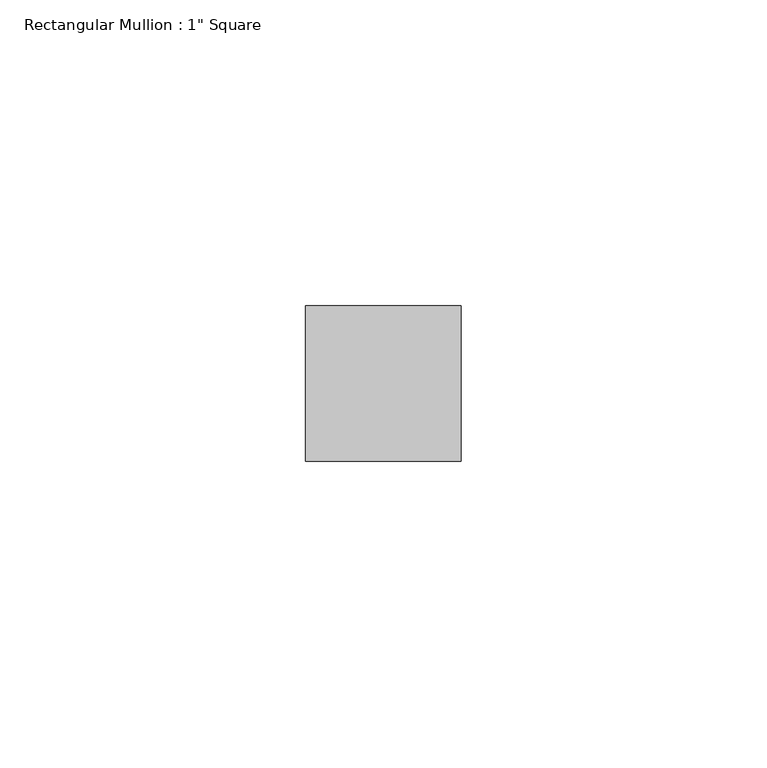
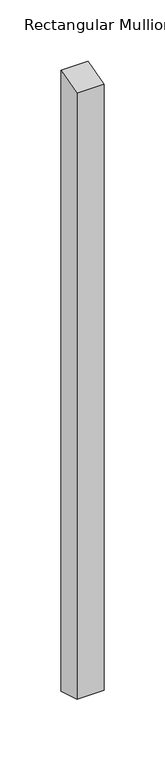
"""IFC4 building model written with IfcOpenShell, lengths in millimetres: member geometry."""

import ifcopenshell
import ifcopenshell.guid

model = None  # the IFC model being written
_history = None  # IfcOwnerHistory: only IFC2X3 demands one
_inside = {}  # id of a spatial element -> (the spatial element, [elements in it])
_under = {}  # id of a project, library or spatial element -> (it, [spatial elements below it])
_declared = {}  # id of a project -> (the project, [libraries it declares])
_typed = {}  # id of a type object -> (the type object, [elements of that type])
_made_of = {}  # id of a material, layer set ... -> (it, [elements and type objects made of it])


def new_model(schema):
    """Start an empty IFC model of exactly this schema.

    Asked for "IFC4X3", IfcOpenShell would pick the latest addendum, in which some entities
    have other attributes; the version numbers below select the first issue.
    IFC2X3 requires an IfcOwnerHistory on every rooted entity: one is made here for all.
    """
    global model, _history
    if schema == "IFC4X3":
        model = ifcopenshell.file(schema_version=(4, 3, 0, 0))
    else:
        model = ifcopenshell.file(schema=schema)
    _inside.clear()
    _under.clear()
    _declared.clear()
    _typed.clear()
    _made_of.clear()
    _history = None
    if model.schema == "IFC2X3":
        org = make("IfcOrganization", Name="unknown")
        user = make(
            "IfcPersonAndOrganization",
            ThePerson=make("IfcPerson", FamilyName="unknown"),
            TheOrganization=org,
        )
        app = make(
            "IfcApplication",
            ApplicationDeveloper=org,
            Version="unknown",
            ApplicationFullName="unknown",
            ApplicationIdentifier="unknown",
        )
        _history = make(
            "IfcOwnerHistory",
            OwningUser=user,
            OwningApplication=app,
            ChangeAction="ADDED",
            CreationDate=0,
        )
    return model


def make(cls, **values):
    """One entity of the class cls with the attributes given. An attribute that is None is left unset."""
    return model.create_entity(
        cls, **{name: value for name, value in values.items() if value is not None}
    )


def rooted(cls, **values):
    """An entity with a GlobalId (a new one), such as an element, a storey or a relation."""
    return make(cls, GlobalId=ifcopenshell.guid.new(), OwnerHistory=_history, **values)


def si_unit(unit_type, name, prefix=None):
    """IfcSIUnit, for example si_unit("LENGTHUNIT", "METRE", prefix="MILLI")."""
    return make("IfcSIUnit", UnitType=unit_type, Prefix=prefix, Name=name)


def assignment(units):
    """IfcUnitAssignment: the units of a project."""
    return None if units is None else make("IfcUnitAssignment", Units=units)


def point(xyz):
    """IfcCartesianPoint."""
    return None if xyz is None else make("IfcCartesianPoint", Coordinates=xyz)


def direction(xyz):
    """IfcDirection."""
    return None if xyz is None else make("IfcDirection", DirectionRatios=xyz)


def frame(location, z_axis=None, x_axis=None):
    """IfcAxis2Placement3D, a coordinate frame: its origin and axes. An axis left out is left unset."""
    return make(
        "IfcAxis2Placement3D",
        Location=point(location),
        Axis=direction(z_axis),
        RefDirection=direction(x_axis),
    )


def origin():
    """The frame at (0, 0, 0) with its axes left unset."""
    return frame((0.0, 0.0, 0.0))


def place(relative_to, where):
    """IfcLocalPlacement: puts the frame where relative to a parent placement (None: the world)."""
    return make(
        "IfcLocalPlacement", PlacementRelTo=relative_to, RelativePlacement=where
    )


def context(
    kind, dimensions, precision=None, world=None, true_north=None, identifier=None
):
    """IfcGeometricRepresentationContext, for example the 3D "Model" context."""
    return make(
        "IfcGeometricRepresentationContext",
        ContextIdentifier=identifier,
        ContextType=kind,
        CoordinateSpaceDimension=dimensions,
        Precision=precision,
        WorldCoordinateSystem=world,
        TrueNorth=true_north,
    )


def project(units=None, contexts=None):
    """IfcProject with its units and contexts."""
    return rooted(
        "IfcProject",
        Name="project",
        RepresentationContexts=contexts,
        UnitsInContext=assignment(units),
    )


def spatial(cls, under=None, at=None, **own):
    """A site, building, storey or space (cls), placed at a placement, below another one or the project."""
    s = rooted(cls, ObjectPlacement=at, **own)
    if under is not None:
        _under.setdefault(under.id(), (under, []))[1].append(s)
    return s


def faces_of(points, faces, orient=None, outer=None):
    """IfcFace entities. A face is a list of loops; a loop is a list of indices into points, from 0.

    orient and outer hold one flag for each loop. By default every Orientation is true, the
    first loop of a face is its IfcFaceOuterBound and the others are IfcFaceBound.
    """
    made = []
    for i, loops in enumerate(faces):
        bounds = []
        for j, loop in enumerate(loops):
            is_outer = j == 0 if outer is None else outer[i][j]
            bounds.append(
                make(
                    "IfcFaceOuterBound" if is_outer else "IfcFaceBound",
                    Bound=make("IfcPolyLoop", Polygon=[points[k] for k in loop]),
                    Orientation=True if orient is None else orient[i][j],
                )
            )
        made.append(make("IfcFace", Bounds=bounds))
    return made


def faceted_brep(points, faces, orient=None, outer=None, voids=None):
    """IfcFacetedBrep: a solid bounded by flat faces; with voids (closed shells), ...WithVoids."""
    shared = [point(p) for p in points]
    hull = make("IfcClosedShell", CfsFaces=faces_of(shared, faces, orient, outer))
    if voids is None:
        return make("IfcFacetedBrep", Outer=hull)
    return make(
        "IfcFacetedBrepWithVoids",
        Outer=hull,
        Voids=[
            make(cls, CfsFaces=faces_of(shared, fs, o, b)) for cls, fs, o, b in voids
        ],
    )


def shape(context_of_items, identifier, shape_type, items):
    """IfcShapeRepresentation: the items that make up one representation, for example the "Body"."""
    return make(
        "IfcShapeRepresentation",
        ContextOfItems=context_of_items,
        RepresentationIdentifier=identifier,
        RepresentationType=shape_type,
        Items=items,
    )


def source(mapping_origin, context_of_items, identifier, shape_type, items):
    """IfcRepresentationMap: a shape defined once, which mapped items show again and again."""
    return make(
        "IfcRepresentationMap",
        MappingOrigin=mapping_origin,
        MappedRepresentation=shape(context_of_items, identifier, shape_type, items),
    )


def transform(
    local_origin,
    x_axis=None,
    y_axis=None,
    z_axis=None,
    scale=None,
    scale2=None,
    scale3=None,
    uniform=True,
):
    """IfcCartesianTransformationOperator3D, or its non-uniform kind. x_axis, y_axis, z_axis: its Axis1, 2, 3."""
    if uniform:
        return make(
            "IfcCartesianTransformationOperator3D",
            Axis1=direction(x_axis),
            Axis2=direction(y_axis),
            LocalOrigin=point(local_origin),
            Scale=scale,
            Axis3=direction(z_axis),
        )
    return make(
        "IfcCartesianTransformationOperator3DnonUniform",
        Axis1=direction(x_axis),
        Axis2=direction(y_axis),
        LocalOrigin=point(local_origin),
        Scale=scale,
        Axis3=direction(z_axis),
        Scale2=scale2,
        Scale3=scale3,
    )


def mapped(mapping_source, mapping_target):
    """IfcMappedItem: shows the shape of a source again, moved by a transform."""
    return make(
        "IfcMappedItem", MappingSource=mapping_source, MappingTarget=mapping_target
    )


def made_of(thing, what):
    """Note that an element or type object is made of a material, layer set ...; save() writes the relation."""
    if what is not None:
        _made_of.setdefault(what.id(), (what, []))[1].append(thing)
    return thing


def element(
    cls,
    number,
    at=None,
    inside=None,
    cuts=None,
    type_object=None,
    material=None,
    context=None,
    identifier="Body",
    shape_type=None,
    held_by="IfcProductDefinitionShape",
    body=None,
    shapes=None,
    **own,
):
    """One element of the class cls, such as IfcWall. Its Tag is "e" and its number.

    at: its placement. inside: the storey or other place that contains it. cuts: it is an
    opening in that element (IfcRelVoidsElement). A single representation is given by context,
    identifier, shape_type and body (its items); several are given by shapes. held_by: the class
    of the entity that holds the representations. save() writes the other relations.
    """
    e = rooted(cls, Tag="e%d" % number, ObjectPlacement=at, **own)
    if body is not None:
        shapes = [shape(context, identifier, shape_type, body)]
    if shapes is not None:
        e.Representation = make(held_by, Representations=shapes)
    if inside is not None:
        _inside.setdefault(inside.id(), (inside, []))[1].append(e)
    if cuts is not None:
        rooted(
            "IfcRelVoidsElement", RelatingBuildingElement=cuts, RelatedOpeningElement=e
        )
    if type_object is not None:
        _typed.setdefault(type_object.id(), (type_object, []))[1].append(e)
    return made_of(e, material)


def aggregate(whole, parts):
    """IfcRelAggregates: a whole, such as a stair, and the parts it consists of."""
    return rooted("IfcRelAggregates", RelatingObject=whole, RelatedObjects=parts)


def save(model, path):
    """Write the relations noted so far, then the file.

    IfcRelAggregates (storeys below a building ...), IfcRelContainedInSpatialStructure (elements
    in a storey), IfcRelDefinesByType, IfcRelAssociatesMaterial and IfcRelDeclares: one each for
    every whole, place, type object, material and project.
    """
    for whole, parts in _under.values():
        aggregate(whole, parts)
    for where, things in _inside.values():
        rooted(
            "IfcRelContainedInSpatialStructure",
            RelatedElements=things,
            RelatingStructure=where,
        )
    for kind, things in _typed.values():
        rooted("IfcRelDefinesByType", RelatedObjects=things, RelatingType=kind)
    for what, things in _made_of.values():
        rooted("IfcRelAssociatesMaterial", RelatedObjects=things, RelatingMaterial=what)
    for by, libraries in _declared.values():
        rooted("IfcRelDeclares", RelatingContext=by, RelatedDefinitions=libraries)
    model.write(path)


def member_1f55a63e(model_context):
    return source(origin(), model_context, "Body", "Brep", [
        faceted_brep([(-25.4, 12.7, 3.7279426), (0.0, 12.7, 3.7084275), (0.0, 12.7, -613.3084275), (-25.4, 12.7, -613.3279426), (-25.4, -12.7, -3.6889123), (-25.4, -12.7, -605.9110877), (0.0, -12.7, -3.7084275), (0.0, -12.7, -605.8915725)], [[[0, 1, 2, 3]], [[4, 0, 3, 5]], [[6, 4, 5, 7]], [[1, 6, 7, 2]], [[1, 0, 4, 6]], [[2, 7, 5, 3]]]),
    ])


if __name__ == "__main__":
    model = new_model("IFC4")
    model_context = context("Model", 3, world=origin())
    ifc_project = project(units=[si_unit("LENGTHUNIT", "METRE", prefix="MILLI")], contexts=[model_context])
    site = spatial("IfcSite", under=ifc_project)
    building = spatial("IfcBuilding", under=site)
    placement = place(None, origin())
    member_shape = member_1f55a63e(model_context)
    element("IfcMember", 1, ObjectType="Rectangular Mullion : 1\" Square", at=placement, inside=building, context=model_context, shape_type="MappedRepresentation", body=[
        mapped(member_shape, transform((0.0, 0.0, 0.0), x_axis=(1.0, 0.0, 0.0), y_axis=(0.0, 1.0, 0.0), z_axis=(0.0, 0.0, 1.0))),
    ])
    save(model, "model.ifc")
